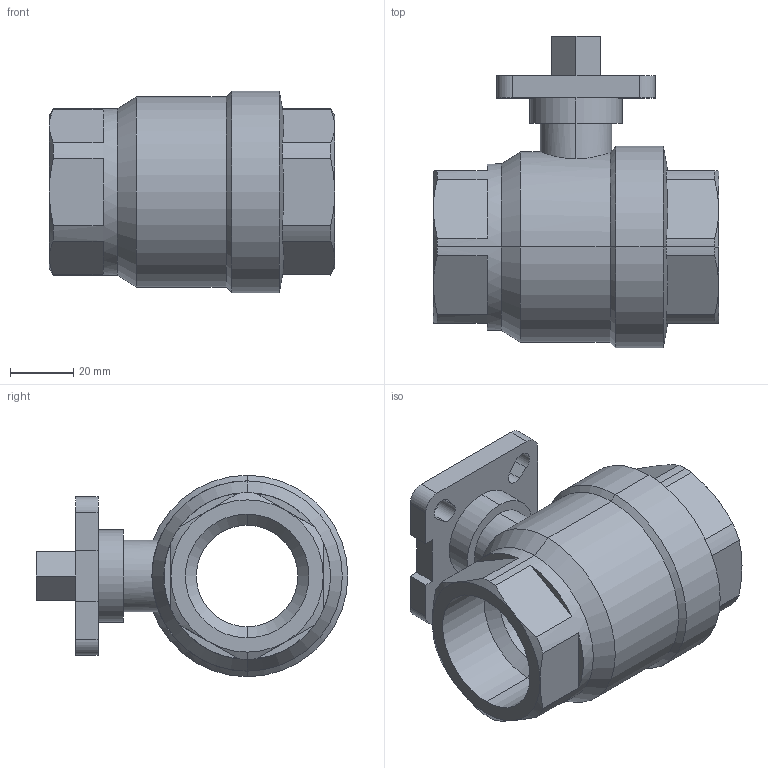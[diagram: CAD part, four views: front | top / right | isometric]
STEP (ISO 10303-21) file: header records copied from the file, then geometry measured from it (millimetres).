
FILE_DESCRIPTION (( 'STEP AP203' ), '1' );
FILE_NAME ('B3.622I0320FVPB0.STEP', '2018-09-28T14:00:05', ( '' ), ( '' ), 'SwSTEP 2.0', 'SolidWorks 2014', '' );
FILE_SCHEMA (( 'CONFIG_CONTROL_DESIGN' ));
Length unit declared in the file: millimetre
Products named in the file (1): B3.622I0320FVPB0
Bounding box: 90 x 98.25 x 63.5 mm (x, y, z)
Volume: 163460.4 mm3; surface area: 36927.1 mm2
Topology: 1 solids, 1 shells, 111 faces, 285 edges, 179 vertices
Faces by surface type: plane 48, cylinder 39, cone 24
Entity records: 3663 total; most frequent: CARTESIAN_POINT 851, DIRECTION 579, ORIENTED_EDGE 570, EDGE_CURVE 285, AXIS2_PLACEMENT_3D 216, VERTEX_POINT 179, VECTOR 147, LINE 147
